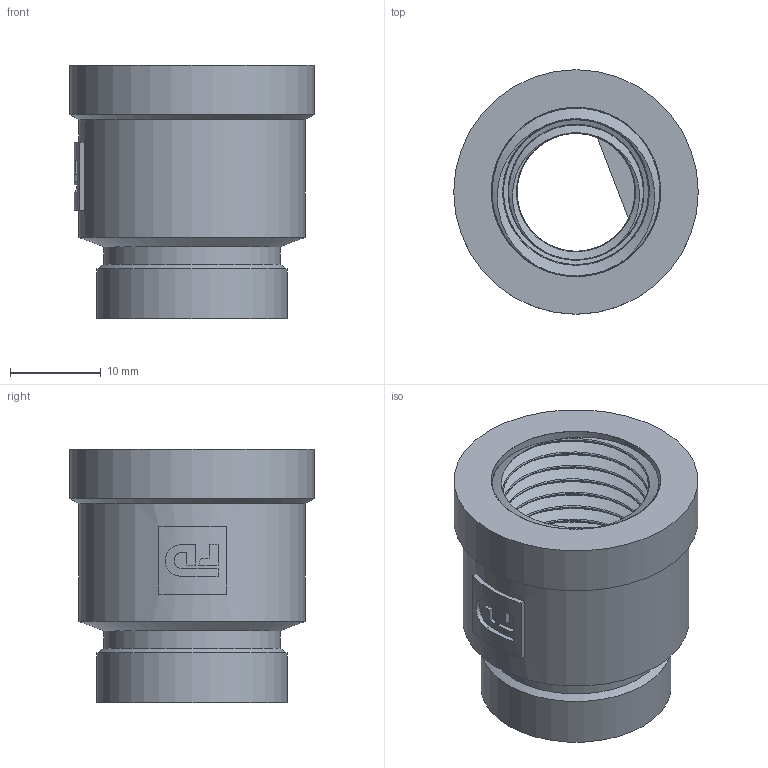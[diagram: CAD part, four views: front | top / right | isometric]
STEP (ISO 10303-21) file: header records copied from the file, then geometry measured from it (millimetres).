
FILE_DESCRIPTION(/* description */ (''),/* implementation_level */ '2;1');
FILE_NAME(/* name */ 'C:\Users\Doom\Desktop\Фадотех\Резьба\M13 18.03.2020\M13 18.03.2020.stp',/* time_stamp */ '2022-01-04T22:33:32+02:00',/* author */ ('Doom'),/* organization */ (''),/* preprocessor_version */ 'ST-DEVELOPER v18',/* originating_system */ 'Autodesk Inventor 2020',/* authorisation */ '');
FILE_SCHEMA (('AUTOMOTIVE_DESIGN { 1 0 10303 214 3 1 1 }'));
Length unit declared in the file: millimetre
Products named in the file (1): M13 18.03.2020
Bounding box: 27 x 27 x 28 mm (x, y, z)
Volume: 8373.9 mm3; surface area: 8924.9 mm2
Topology: 3 solids, 3 shells, 81 faces, 214 edges, 140 vertices
Faces by surface type: cylinder 37, plane 24, bspline 16, cone 4
Full cylindrical faces by diameter (mm): 13.018 x10, 15 x2, 16.01 x12, 18.7 x2, 19.5 x1, 21 x1, 25 x1, 27 x1
Entity records: 11593 total; most frequent: CARTESIAN_POINT 9705, ORIENTED_EDGE 420, DIRECTION 320, EDGE_CURVE 210, VERTEX_POINT 138, AXIS2_PLACEMENT_3D 124, EDGE_LOOP 90, FACE_OUTER_BOUND 81
